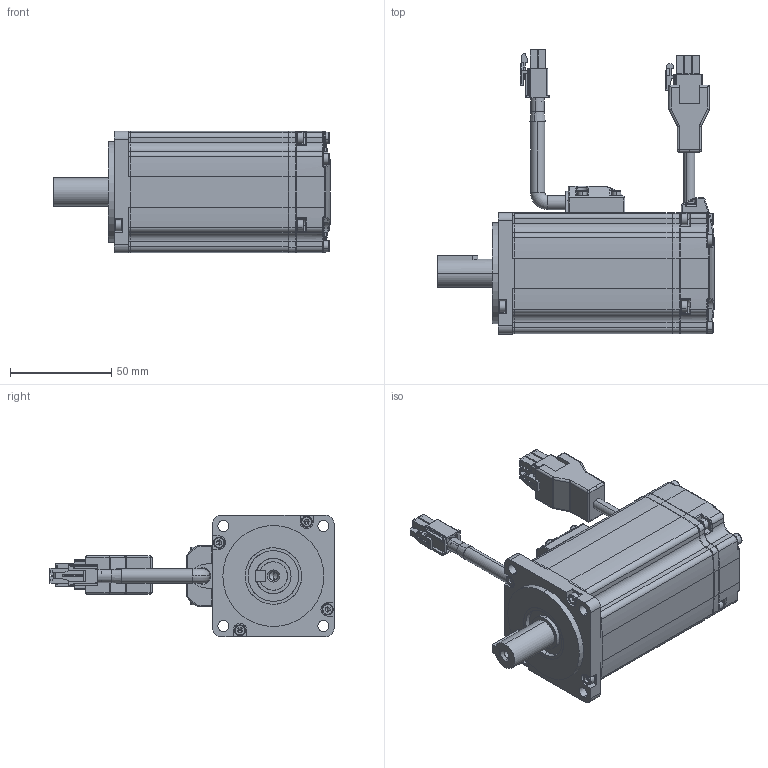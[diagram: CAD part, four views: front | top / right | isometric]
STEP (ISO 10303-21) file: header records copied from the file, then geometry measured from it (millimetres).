
FILE_DESCRIPTION (( 'STEP AP203' ), '1' );
FILE_NAME ('EM3A-02ALA（抱闸）.STEP', '2020-04-10T02:23:06', ( '' ), ( '' ), 'SwSTEP 2.0', 'SolidWorks 2018', '' );
FILE_SCHEMA (( 'CONFIG_CONTROL_DESIGN' ));
Length unit declared in the file: millimetre
Products named in the file (24): 脣芛誘杶; hexagon socket head cap screws gb_GB_FASTENER_SCREWS_HSHCS M3X12-NHDA; 172169-1ㄗAMPㄘ; hexagon socket head cap screws gb_GB_FASTENER_SCREWS_HSHCS M3X40-NHDA; ｸｴｼ ﾖ瓲M3A02A-310-A7-S2^EM3A-02ALA-23｣ｨ4｣ｩ1; 晤鎢傷辿盄; hexagon socket head cap screws gb_GB_FASTENER_SCREWS_HSHCS M2.5X12-NHDA; 复件 EM3A04A-120-A1（前端盖）^EM3A-02ALA-23（4）1; 4X0.75+2X0.35（申远电缆）_不带抱闸; cross recessed pan head tapping screws gb_GB_CROSS_SCREWS_TYPE128 ST2.2X9.5 H C-NBX; 复件 EM3A02A-210-A1-S2（机壳）^EM3A-02ALA-23（4）1_后加工止口，定子成品状态; 热缩套管（直径8黑色）; 复件 WA14×28×4 FKM^EM3A-02ALA-23（4）1; 复件 EM3A04A-130-A7（后端盖）^EM3A-02ALA-23（4）1; 172167-1ㄗAMPㄘ; 复件 EM3A04A-280-A-S1（电源引线垫）^EM3A-02ALA-23（4）1; 复件 EM3A04A-420-A-S1（编码器引线盒）^EM3A-02ALA-23（4）1; 雄薯辿盄; 复件 圆头平键5X20^EM3A-02ALA-23（4）1; 复件 EM3A04A-270-A-S2（电源引线盒）^EM3A-02ALA-23（4）1; EM3A04A-410-A-S2（编码器罩）_B2; 萇擢; spring lock washers--normal type gb_GB_FASTENER_WASHER_SW 3BX; EM3A-02ALA（抱闸）
Assembly tree (45 placements, depth 3):
  EM3A-02ALA（抱闸）
    ｸｴｼ ﾖ瓲M3A02A-310-A7-S2^EM3A-02ALA-23｣ｨ4｣ｩ1
    复件 EM3A04A-120-A1（前端盖）^EM3A-02ALA-23（4）1
    复件 EM3A02A-210-A1-S2（机壳）^EM3A-02ALA-23（4）1_后加工止口，定子成品状态
    复件 EM3A04A-130-A7（后端盖）^EM3A-02ALA-23（4）1
    复件 EM3A04A-420-A-S1（编码器引线盒）^EM3A-02ALA-23（4）1
    复件 EM3A04A-270-A-S2（电源引线盒）^EM3A-02ALA-23（4）1
    spring lock washers--normal type gb_GB_FASTENER_WASHER_SW 3BX  x8
    hexagon socket head cap screws gb_GB_FASTENER_SCREWS_HSHCS M3X12-NHDA  x8
    hexagon socket head cap screws gb_GB_FASTENER_SCREWS_HSHCS M3X40-NHDA  x4
    hexagon socket head cap screws gb_GB_FASTENER_SCREWS_HSHCS M2.5X12-NHDA  x4
    cross recessed pan head tapping screws gb_GB_CROSS_SCREWS_TYPE128 ST2.2X9.5 H C-NBX  x2
    复件 WA14×28×4 FKM^EM3A-02ALA-23（4）1  x2
    复件 EM3A04A-280-A-S1（电源引线垫）^EM3A-02ALA-23（4）1
    复件 圆头平键5X20^EM3A-02ALA-23（4）1
    晤鎢傷辿盄
      萇擢
      脣芛誘杶
      172169-1ㄗAMPㄘ
    雄薯辿盄
      4X0.75+2X0.35（申远电缆）_不带抱闸
      热缩套管（直径8黑色）
      172167-1ㄗAMPㄘ
    EM3A04A-410-A-S2（编码器罩）_B2
Bounding box: 137 x 140.49 x 60 mm (x, y, z)
Volume: 153443.7 mm3; surface area: 97272.5 mm2
Topology: 44 solids, 44 shells, 2420 faces, 5998 edges, 3708 vertices
Faces by surface type: plane 1190, cylinder 738, cone 210, torus 130, bspline 105, sphere 47
Entity records: 64641 total; most frequent: CARTESIAN_POINT 14120, ORIENTED_EDGE 9916, DIRECTION 9840, EDGE_CURVE 4958, AXIS2_PLACEMENT_3D 3441, VERTEX_POINT 3114, LINE 2958, VECTOR 2958
